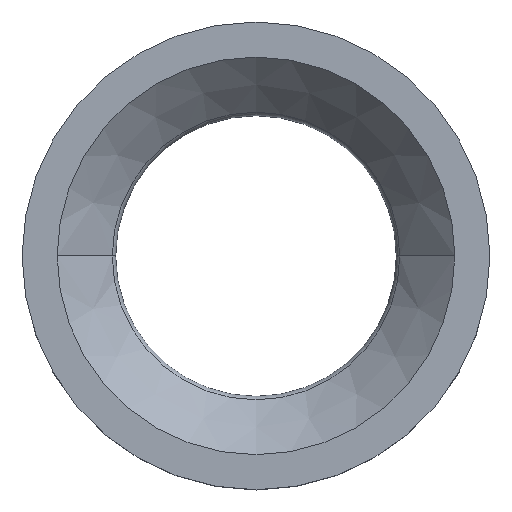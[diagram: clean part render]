
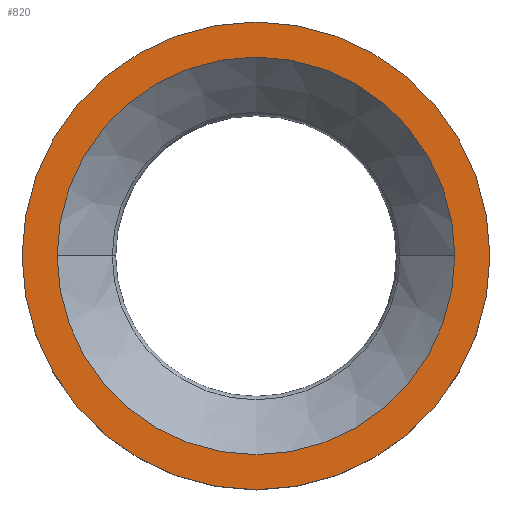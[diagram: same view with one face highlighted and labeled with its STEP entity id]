
A CAD part, top view. The second image highlights one B-rep face of the part: STEP entity #820.
In plain terms, the highlighted planar face has unit normal (0, 0, 1).
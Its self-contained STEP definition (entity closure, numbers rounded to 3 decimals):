
#125=CARTESIAN_POINT('',(0.,0.,22.));
#126=DIRECTION('',(0.,0.,1.));
#127=DIRECTION('',(1.,0.,0.));
#128=AXIS2_PLACEMENT_3D('',#125,#126,#127);
#130=CARTESIAN_POINT('',(0.,0.,22.));
#131=DIRECTION('',(0.,0.,1.));
#132=DIRECTION('',(-1.,0.,0.));
#133=AXIS2_PLACEMENT_3D('',#130,#131,#132);
#135=CARTESIAN_POINT('',(0.,0.,22.));
#136=DIRECTION('',(0.,0.,-1.));
#137=DIRECTION('',(1.,0.,0.));
#138=AXIS2_PLACEMENT_3D('',#135,#136,#137);
#140=CARTESIAN_POINT('',(0.,0.,22.));
#141=DIRECTION('',(0.,0.,-1.));
#142=DIRECTION('',(-1.,0.,0.));
#143=AXIS2_PLACEMENT_3D('',#140,#141,#142);
#515=CARTESIAN_POINT('',(40.,0.,22.));
#516=CARTESIAN_POINT('',(-40.,0.,22.));
#517=VERTEX_POINT('',#515);
#518=VERTEX_POINT('',#516);
#519=CARTESIAN_POINT('',(34.,0.,22.));
#520=CARTESIAN_POINT('',(-34.,0.,22.));
#521=VERTEX_POINT('',#519);
#522=VERTEX_POINT('',#520);
#805=CARTESIAN_POINT('',(0.,0.,22.));
#806=DIRECTION('',(0.,0.,1.));
#807=DIRECTION('',(1.,0.,0.));
#808=AXIS2_PLACEMENT_3D('',#805,#806,#807);
#809=PLANE('',#808);
#811=ORIENTED_EDGE('',*,*,#810,.F.);
#813=ORIENTED_EDGE('',*,*,#812,.F.);
#814=EDGE_LOOP('',(#811,#813));
#815=FACE_OUTER_BOUND('',#814,.F.);
#816=ORIENTED_EDGE('',*,*,#785,.F.);
#817=ORIENTED_EDGE('',*,*,#799,.F.);
#818=EDGE_LOOP('',(#816,#817));
#819=FACE_BOUND('',#818,.F.);
#129=CIRCLE('',#128,40.);
#134=CIRCLE('',#133,40.);
#139=CIRCLE('',#138,34.);
#144=CIRCLE('',#143,34.);
#785=EDGE_CURVE('',#521,#522,#139,.T.);
#799=EDGE_CURVE('',#522,#521,#144,.T.);
#810=EDGE_CURVE('',#517,#518,#129,.T.);
#812=EDGE_CURVE('',#518,#517,#134,.T.);
#820=ADVANCED_FACE('',(#815,#819),#809,.T.);
